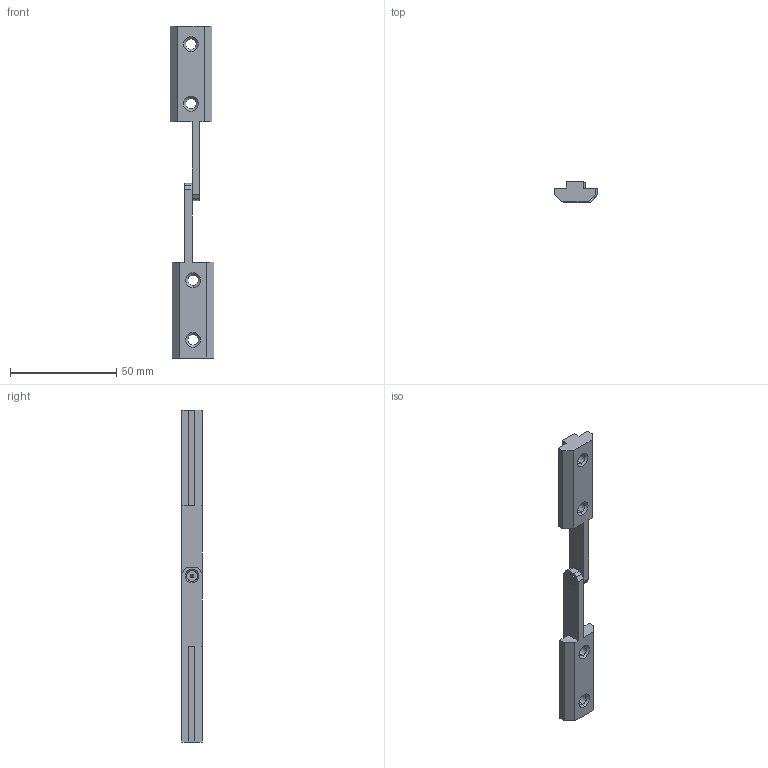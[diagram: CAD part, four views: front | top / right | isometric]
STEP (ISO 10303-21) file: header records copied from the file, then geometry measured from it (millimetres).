
FILE_DESCRIPTION (( 'STEP AP203' ), '1' );
FILE_NAME ('5350full.STEP', '2016-10-02T12:53:15', ( '' ), ( '' ), 'SwSTEP 2.0', 'SolidWorks 2014', '' );
FILE_SCHEMA (( 'CONFIG_CONTROL_DESIGN' ));
Length unit declared in the file: millimetre
Products named in the file (3): 膹樖罻; 5350; 5350full
Assembly tree (3 placements, depth 2):
  5350full
    5350  x2
    膹樖罻
Bounding box: 20.5 x 9.49 x 156 mm (x, y, z)
Volume: 14031.3 mm3; surface area: 7820.2 mm2
Topology: 3 solids, 3 shells, 87 faces, 210 edges, 130 vertices
Faces by surface type: plane 37, cone 28, cylinder 22
Entity records: 1768 total; most frequent: DIRECTION 271, CARTESIAN_POINT 245, ORIENTED_EDGE 234, EDGE_CURVE 117, AXIS2_PLACEMENT_3D 98, VECTOR 75, LINE 75, VERTEX_POINT 72
